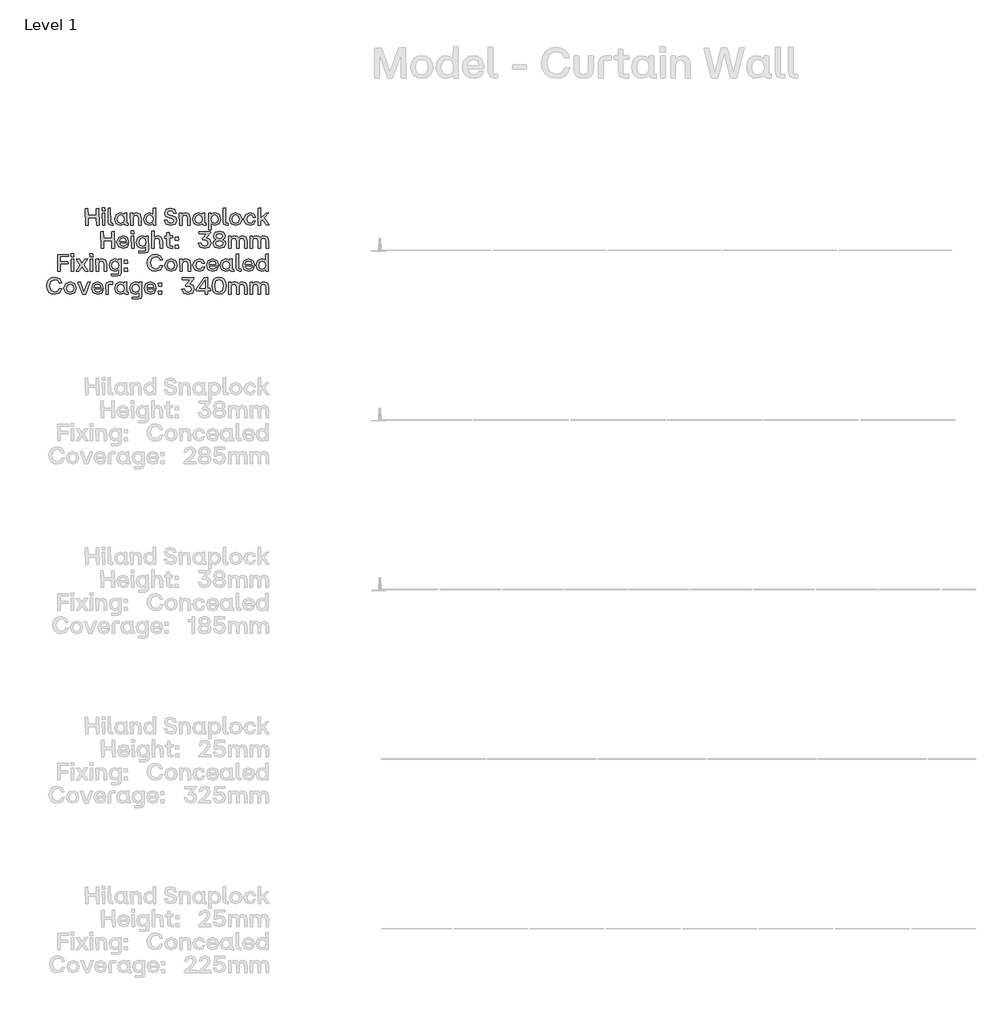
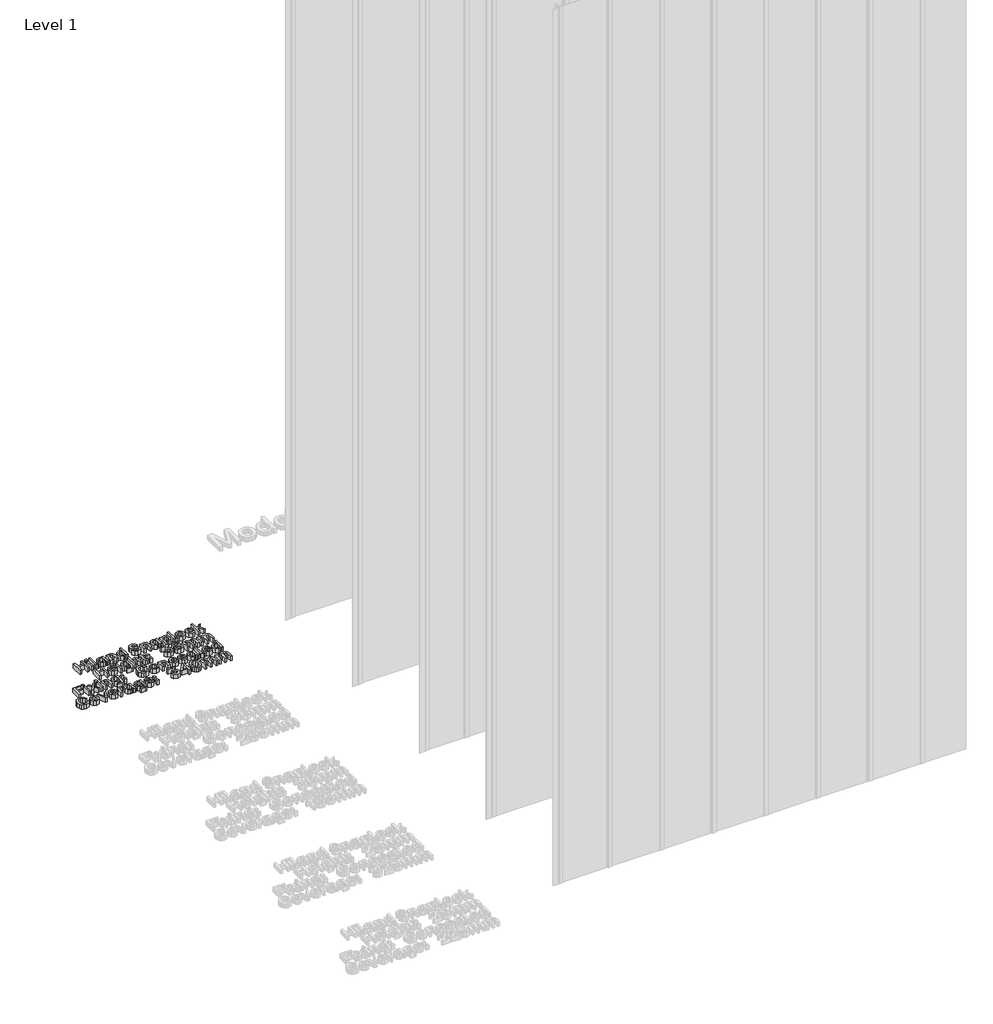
# One storey, part 7 of 64: 1 proxy.
"""IFC4 building model written with IfcOpenShell, lengths in millimetres."""

from ifc_helpers import new_model, si_unit, origin, origin_with_axes, place, context, project, spatial, polyline, outline, extrude, element, save

model = new_model("IFC4")

# Units and contexts
model_context = context("Model", 3, world=origin())
ifc_project = project(units=[si_unit("LENGTHUNIT", "METRE", prefix="MILLI")], contexts=[model_context])

# Site, building, storey
site = spatial("IfcSite", under=ifc_project)
building = spatial("IfcBuilding", under=site)
storey = spatial("IfcBuildingStorey", under=building, Name="Level 1", Elevation=0.0)

# Proxy
placement = place(None, origin())
element("IfcBuildingElementProxy", 1, Name="50mm", ObjectType="50mm", at=placement, inside=storey, context=model_context, shape_type="SweptSolid", body=[
    extrude(outline(polyline([(-811.1721134, -6933.5188866), (-811.8694452, -6911.5808277), (-835.7181932, -6911.5808277), (-835.7181932, -6932.8215548), (-843.2214836, -6933.5188866), (-843.9467087, -6884.2454206), (-836.457365, -6883.5201955), (-835.7181932, -6904.6075096), (-811.8694452, -6904.6075096), (-811.8694452, -6884.2454206), (-804.3801015, -6883.5201955), (-803.6827697, -6932.8215548), (-811.1721134, -6933.5188866)])), origin_with_axes(), (0.0, 0.0, 1.0), 20.0),
    extrude(outline(polyline([(-793.585405, -6933.5188866), (-794.3106301, -6897.8154977), (-787.1002191, -6897.1181659), (-786.4028873, -6932.8215548), (-793.585405, -6933.5188866)])), origin_with_axes(), (0.0, 0.0, 1.0), 20.0),
    extrude(outline(polyline([(-794.5198296, -6890.4516737), (-794.8684955, -6882.4044646), (-786.4726205, -6881.6652929), (-785.7334488, -6890.1030078), (-794.5198296, -6890.4516737)])), origin_with_axes(), (0.0, 0.0, 1.0), 20.0),
    extrude(outline(polyline([(-767.0031162, -6933.5188866), (-774.7016595, -6930.8690257), (-777.3515204, -6923.1565359), (-777.3515204, -6882.8228637), (-770.1411094, -6882.083692), (-769.4437776, -6927.2429003), (-762.7772854, -6927.2429003), (-762.0799536, -6932.8215548), (-767.0031162, -6933.5188866)])), origin_with_axes(), (0.0, 0.0, 1.0), 20.0),
    extrude(outline(polyline([(-741.9131175, -6933.9372857), (-753.6840786, -6928.8955767), (-758.0633224, -6915.3882594), (-753.6840786, -6901.7484491), (-741.9131175, -6896.6579269), (-735.2954386, -6898.2617901), (-730.3095161, -6902.6549805), (-729.9887435, -6897.8154977), (-722.8062258, -6897.1181659), (-722.0810007, -6927.2429003), (-718.1341027, -6927.2429003), (-717.4367709, -6932.8215548), (-723.4338245, -6933.5188866), (-728.0885143, -6932.2113895), (-729.6400776, -6928.288898), (-734.9955859, -6932.3334225), (-741.9131175, -6933.9372857)]), holes=[polyline([(-750.0021666, -6915.3882594), (-747.2477059, -6924.2792401), (-739.7234956, -6927.521833), (-732.3596717, -6924.2931867), (-729.7098108, -6915.3882594), (-732.3805916, -6906.392679), (-739.7234956, -6903.1152195), (-747.2477059, -6906.392679), (-750.0021666, -6915.3882594)])]), origin_with_axes(), (0.0, 0.0, 1.0), 20.0),
    extrude(outline(polyline([(-710.5750258, -6933.5188866), (-711.3002509, -6897.8154977), (-704.4385058, -6897.1181659), (-703.741174, -6902.6549805), (-698.5774319, -6898.1571903), (-691.9562663, -6896.6579269), (-682.3958472, -6900.8419178), (-679.083521, -6913.0870644), (-679.083521, -6932.8215548), (-686.3078786, -6933.5188866), (-687.0331037, -6913.0870644), (-688.9856328, -6905.7092939), (-695.1570194, -6903.3941522), (-701.3841925, -6905.7441604), (-703.3925081, -6913.0870644), (-703.3925081, -6932.8215548), (-710.5750258, -6933.5188866)])), origin_with_axes(), (0.0, 0.0, 1.0), 20.0),
    extrude(outline(polyline([(-656.2249842, -6933.9372857), (-667.9959452, -6928.8955767), (-672.375189, -6915.3882594), (-667.9959452, -6901.7484491), (-656.2249842, -6896.6579269), (-649.6073052, -6898.2617901), (-644.6213828, -6902.6549805), (-644.3006101, -6882.8228637), (-637.1180924, -6882.083692), (-636.3928674, -6932.8215548), (-643.2546124, -6933.5188866), (-643.9519442, -6928.0099653), (-649.3074526, -6932.3334225), (-656.2249842, -6933.9372857)]), holes=[polyline([(-664.3140332, -6915.3882594), (-661.5595725, -6924.2792401), (-654.0353623, -6927.521833), (-646.6715383, -6924.2931867), (-644.0216774, -6915.3882594), (-646.6924583, -6906.392679), (-654.0353623, -6903.1152195), (-661.5595725, -6906.392679), (-664.3140332, -6915.3882594)])]), origin_with_axes(), (0.0, 0.0, 1.0), 20.0),
    extrude(outline(polyline([(-592.2378169, -6933.9372857), (-605.8218406, -6929.823028), (-611.8049476, -6918.1078535), (-604.4411236, -6917.2989486), (-600.2780527, -6924.9417053), (-592.2378169, -6927.1034339), (-585.2854187, -6925.1160383), (-582.7959441, -6919.6001436), (-584.5183537, -6915.0186736), (-590.2852878, -6912.7383985), (-596.8820467, -6911.5808277), (-607.3629439, -6906.8180514), (-610.8565763, -6897.4668318), (-606.3797061, -6886.9022548), (-593.8835199, -6883.1017964), (-581.2897074, -6886.951068), (-575.6831596, -6897.8154977), (-583.0051436, -6898.610456), (-587.0287482, -6891.8672573), (-593.8835199, -6889.9635415), (-600.417519, -6891.706871), (-602.6699008, -6896.7973933), (-600.6615852, -6901.6299027), (-594.3716522, -6904.1612172), (-587.8167332, -6905.3048414), (-577.7193685, -6909.8932847), (-574.5953219, -6919.4606772), (-579.2883651, -6930.1019607), (-592.2378169, -6933.9372857)])), origin_with_axes(), (0.0, 0.0, 1.0), 20.0),
    extrude(outline(polyline([(-565.9763007, -6933.5188866), (-566.7015258, -6897.8154977), (-559.8397808, -6897.1181659), (-559.1424489, -6902.6549805), (-553.9787069, -6898.1571903), (-547.3575413, -6896.6579269), (-537.7971221, -6900.8419178), (-534.484796, -6913.0870644), (-534.484796, -6932.8215548), (-541.7091536, -6933.5188866), (-542.4343787, -6913.0870644), (-544.3869077, -6905.7092939), (-550.5582943, -6903.3941522), (-556.7854674, -6905.7441604), (-558.793783, -6913.0870644), (-558.793783, -6932.8215548), (-565.9763007, -6933.5188866)])), origin_with_axes(), (0.0, 0.0, 1.0), 20.0),
    extrude(outline(polyline([(-511.6262591, -6933.9372857), (-523.3972201, -6928.8955767), (-527.7764639, -6915.3882594), (-523.3972201, -6901.7484491), (-511.6262591, -6896.6579269), (-505.0085802, -6898.2617901), (-500.0226577, -6902.6549805), (-499.7018851, -6897.8154977), (-492.5193674, -6897.1181659), (-491.7941423, -6927.2429003), (-487.8472442, -6927.2429003), (-487.1499124, -6932.8215548), (-493.146966, -6933.5188866), (-497.8016559, -6932.2113895), (-499.3532192, -6928.288898), (-504.7087275, -6932.3334225), (-511.6262591, -6933.9372857)]), holes=[polyline([(-519.7153081, -6915.3882594), (-516.9608475, -6924.2792401), (-509.4366372, -6927.521833), (-502.0728132, -6924.2931867), (-499.4229523, -6915.3882594), (-502.0937332, -6906.392679), (-509.4366372, -6903.1152195), (-516.9608475, -6906.392679), (-519.7153081, -6915.3882594)])]), origin_with_axes(), (0.0, 0.0, 1.0), 20.0),
    extrude(outline(polyline([(-480.2881673, -6947.0750171), (-481.0133924, -6897.8154977), (-474.1516474, -6897.1181659), (-473.4543156, -6902.5852473), (-468.0988072, -6898.2617901), (-461.1812756, -6896.6579269), (-449.4103146, -6901.7135826), (-445.0310708, -6915.2487931), (-449.4103146, -6928.8607101), (-461.1812756, -6933.9372857), (-467.7989545, -6932.3334225), (-472.784877, -6927.9402321), (-473.1056497, -6946.3776853), (-480.2881673, -6947.0750171)]), holes=[polyline([(-473.3845824, -6915.2487931), (-470.7138015, -6924.2443735), (-463.3708975, -6927.521833), (-455.8466872, -6924.2443735), (-453.0922266, -6915.2487931), (-455.8466872, -6906.3578124), (-463.3708975, -6903.1152195), (-470.7347215, -6906.3368925), (-473.3845824, -6915.2487931)])]), origin_with_axes(), (0.0, 0.0, 1.0), 20.0),
    extrude(outline(polyline([(-427.8209216, -6933.5188866), (-435.5194648, -6930.8690257), (-438.1693257, -6923.1565359), (-438.1693257, -6882.8228637), (-430.9589148, -6882.083692), (-430.261583, -6927.2429003), (-423.5950908, -6927.2429003), (-422.897759, -6932.8215548), (-427.8209216, -6933.5188866)])), origin_with_axes(), (0.0, 0.0, 1.0), 20.0),
    extrude(outline(polyline([(-400.6807674, -6933.9372857), (-413.8394187, -6928.8118969), (-418.8811278, -6915.3882594), (-413.8254721, -6901.8530489), (-400.6807674, -6896.6579269), (-387.410543, -6901.8530489), (-382.3409407, -6915.3882594), (-387.410543, -6928.8118969), (-400.6807674, -6933.9372857)]), holes=[polyline([(-410.819972, -6915.3882594), (-408.1212979, -6924.2931867), (-400.6807674, -6927.521833), (-393.1426105, -6924.2792401), (-390.3881498, -6915.3882594), (-393.1286638, -6906.392679), (-400.6807674, -6903.1152195), (-408.1212979, -6906.392679), (-410.819972, -6915.3882594)])]), origin_with_axes(), (0.0, 0.0, 1.0), 20.0),
    extrude(outline(polyline([(-358.5898191, -6933.9372857), (-371.9228034, -6928.8955767), (-376.9296458, -6915.3882594), (-371.8530702, -6901.8530489), (-358.5898191, -6896.6579269), (-347.5161898, -6900.0957727), (-342.3001479, -6909.1820063), (-349.3153059, -6909.9490713), (-352.8856448, -6904.6493495), (-358.5898191, -6903.1152195), (-366.1488959, -6906.392679), (-368.86849, -6915.3882594), (-366.1349493, -6924.3141067), (-358.5898191, -6927.521833), (-352.7113119, -6926.0574362), (-349.733705, -6921.3155799), (-342.6488138, -6920.6461413), (-347.3069903, -6930.4994399), (-358.5898191, -6933.9372857)])), origin_with_axes(), (0.0, 0.0, 1.0), 20.0),
    extrude(outline(polyline([(-333.9042728, -6933.5188866), (-334.6294979, -6882.8228637), (-327.4190869, -6882.083692), (-326.7217551, -6912.8778649), (-311.4780817, -6897.4668318), (-303.5703389, -6897.1181659), (-316.2896712, -6912.0410667), (-302.2035685, -6932.6402485), (-309.8463252, -6933.5188866), (-321.5614997, -6917.2292154), (-326.7217551, -6922.2918444), (-326.7217551, -6932.8215548), (-333.9042728, -6933.5188866)])), origin_with_axes(), (0.0, 0.0, 1.0), 20.0),
    extrude(outline(polyline([(-765.6502925, -7001.3705811), (-766.3476243, -6979.4325222), (-790.1963724, -6979.4325222), (-790.1963724, -7000.6732493), (-797.6996627, -7001.3705811), (-798.4248878, -6952.0971151), (-790.9355441, -6951.37189), (-790.1963724, -6972.459204), (-766.3476243, -6972.459204), (-766.3476243, -6952.0971151), (-758.8582806, -6951.37189), (-758.1609488, -7000.6732493), (-765.6502925, -7001.3705811)])), origin_with_axes(), (0.0, 0.0, 1.0), 20.0),
    extrude(outline(polyline([(-732.5130847, -7001.7889802), (-745.9158022, -6996.7472711), (-750.9226446, -6983.2399539), (-745.9367221, -6969.586197), (-732.5130847, -6964.5096214), (-720.2330714, -6969.5164638), (-715.7352812, -6983.1702207), (-715.7352812, -6985.0809099), (-742.7917556, -6985.8200816), (-739.7234956, -6992.8631329), (-732.5130847, -6995.3735275), (-726.7252306, -6994.0974102), (-723.7267038, -6990.520098), (-716.6418126, -6989.9343393), (-721.2999891, -6998.6998002), (-732.5130847, -7001.7889802)]), holes=[polyline([(-742.7220224, -6980.0322275), (-723.5175043, -6980.0322275), (-726.1603919, -6973.3866554), (-732.5130847, -6970.966914), (-739.6049492, -6973.2681089), (-742.7220224, -6980.0322275)])]), origin_with_axes(), (0.0, 0.0, 1.0), 20.0),
    extrude(outline(polyline([(-708.8316963, -6958.3033682), (-709.1803622, -6950.2561591), (-700.7844871, -6949.5169873), (-700.0453154, -6957.9547023), (-708.8316963, -6958.3033682)])), origin_with_axes(), (0.0, 0.0, 1.0), 20.0),
    extrude(outline(polyline([(-707.8972716, -7001.3705811), (-708.6224967, -6965.6671922), (-701.4120858, -6964.9698603), (-700.7147539, -7000.6732493), (-707.8972716, -7001.3705811)])), origin_with_axes(), (0.0, 0.0, 1.0), 20.0),
    extrude(outline(polyline([(-686.2241988, -7014.9267115), (-686.9633706, -7009.348057), (-665.7226435, -7008.6507252), (-665.7226435, -6995.7919266), (-671.0293386, -7000.185117), (-677.6470175, -7001.7889802), (-689.4179785, -6996.7124045), (-693.7972223, -6983.1004875), (-689.4179785, -6969.565277), (-677.6470175, -6964.5096214), (-670.7294859, -6966.1134845), (-665.6529103, -6970.4369418), (-665.3739776, -6965.6671922), (-658.5401258, -6964.9698603), (-657.8149007, -7004.9269733), (-660.3950284, -7012.3675038), (-667.8146389, -7014.9267115), (-686.2241988, -7014.9267115)]), holes=[polyline([(-685.7360666, -6983.1004875), (-682.9816059, -6992.0960679), (-675.4573956, -6995.3735275), (-668.1144916, -6992.0960679), (-665.4437108, -6983.1004875), (-668.0935716, -6974.1885869), (-675.4573956, -6970.966914), (-682.9816059, -6974.2095069), (-685.7360666, -6983.1004875)])]), origin_with_axes(), (0.0, 0.0, 1.0), 20.0),
    extrude(outline(polyline([(-648.0940952, -7001.3705811), (-648.8193203, -6950.6745581), (-641.6089093, -6949.9353864), (-640.9115775, -6970.2277422), (-635.8245419, -6965.9391516), (-629.4753358, -6964.5096214), (-619.9149166, -6968.6936122), (-616.6025905, -6980.9387589), (-616.6025905, -7000.6732493), (-623.8269481, -7001.3705811), (-624.5521731, -6980.9387589), (-626.5047022, -6973.5609883), (-632.6760888, -6971.2458467), (-638.9032619, -6973.5958549), (-640.9115775, -6980.9387589), (-640.9115775, -7000.6732493), (-648.0940952, -7001.3705811)])), origin_with_axes(), (0.0, 0.0, 1.0), 20.0),
    extrude(outline(polyline([(-593.3256545, -7001.3705811), (-601.0381444, -6998.7207202), (-603.6880053, -6991.0082303), (-603.6880053, -6971.2458467), (-609.8942584, -6971.2458467), (-610.6194835, -6965.6671922), (-603.6880053, -6964.9698603), (-603.6880053, -6954.9561755), (-596.4636477, -6954.2309504), (-595.7663158, -6964.9698603), (-586.979935, -6964.9698603), (-586.2547099, -6970.506675), (-595.7663158, -6971.2458467), (-595.7663158, -6995.0945947), (-586.979935, -6995.0945947), (-586.2547099, -7000.6732493), (-593.3256545, -7001.3705811)])), origin_with_axes(), (0.0, 0.0, 1.0), 20.0),
    extrude(outline(polyline([(-578.849046, -6977.7310326), (-579.5463778, -6968.1078535), (-570.0626652, -6967.3686818), (-569.3374401, -6977.0337007), (-578.849046, -6977.7310326)])), origin_with_axes(), (0.0, 0.0, 1.0), 20.0),
    extrude(outline(polyline([(-579.1977119, -7001.0219152), (-579.5463778, -6991.747402), (-570.0626652, -6991.0082303), (-569.3374401, -7000.6732493), (-579.1977119, -7001.0219152)])), origin_with_axes(), (0.0, 0.0, 1.0), 20.0),
    extrude(outline(polyline([(-491.7244091, -7001.7889802), (-505.1201533, -6997.7235357), (-510.9428739, -6985.959548), (-503.57905, -6985.1506431), (-499.415979, -6992.7236666), (-491.7244091, -6994.9551284), (-484.5837313, -6992.5493336), (-481.9338704, -6985.959548), (-484.7022777, -6979.0908296), (-493.3701122, -6976.8942344), (-498.8093003, -6976.8942344), (-499.5066322, -6972.8078699), (-486.1457546, -6958.6520341), (-508.8508785, -6958.3731014), (-509.5761036, -6952.0971151), (-475.8670836, -6951.37189), (-475.1697518, -6956.1834795), (-488.0703904, -6970.0882759), (-477.3454271, -6975.2136647), (-473.7332483, -6985.959548), (-478.5797044, -6997.5352561), (-491.7244091, -7001.7889802)])), origin_with_axes(), (0.0, 0.0, 1.0), 20.0),
    extrude(outline(polyline([(-434.5710936, -6998.1768014), (-448.6153563, -7001.7889802), (-462.6875123, -6998.1768014), (-467.6246216, -6987.8702371), (-465.1490936, -6980.1368273), (-458.4895748, -6975.8063967), (-464.0542827, -6971.1691402), (-465.9091853, -6964.370155), (-461.2231155, -6954.5796163), (-448.6223296, -6950.9534909), (-436.0354904, -6954.5796163), (-431.3633672, -6964.370155), (-433.2182699, -6971.1691402), (-438.7829777, -6975.527464), (-432.1234589, -6980.1368273), (-429.647931, -6987.8702371), (-434.5710936, -6998.1768014)]), holes=[polyline([(-459.4239995, -6986.9358125), (-456.7218387, -6992.9502994), (-448.6153563, -6994.9551284), (-440.5402539, -6992.9502994), (-437.8485531, -6986.9358125), (-440.5402539, -6981.3606446), (-448.6153563, -6979.5022554), (-456.7218387, -6981.3606446), (-459.4239995, -6986.9358125)]), polyline([(-457.6806699, -6965.4579926), (-455.3446083, -6970.8065276), (-448.6153563, -6972.6684036), (-441.8861043, -6970.8065276), (-439.5500427, -6965.4579926), (-441.8861043, -6959.788685), (-448.6153563, -6957.8152359), (-455.3446083, -6959.788685), (-457.6806699, -6965.4579926)])]), origin_with_axes(), (0.0, 0.0, 1.0), 20.0),
    extrude(outline(polyline([(-421.3775756, -7001.3705811), (-422.1028007, -6965.6671922), (-415.2410557, -6964.9698603), (-414.5437239, -6970.506675), (-409.5578014, -6966.0088848), (-403.1074821, -6964.5096214), (-396.8210358, -6966.0088848), (-392.605665, -6970.506675), (-386.7829443, -6966.0646713), (-379.5376668, -6964.5096214), (-370.2631536, -6968.6796656), (-367.0554273, -6980.9387589), (-367.0554273, -7000.6732493), (-374.2658383, -7001.3705811), (-374.9631701, -6980.9387589), (-376.845966, -6973.5609883), (-382.8151263, -6971.2458467), (-388.7215268, -6973.5958549), (-390.6252426, -6980.9387589), (-390.6252426, -7000.6732493), (-397.8356536, -7001.3705811), (-398.5329854, -6980.9387589), (-400.4018347, -6973.5609883), (-406.3152085, -6971.2458467), (-412.2913421, -6973.5958549), (-414.195058, -6980.9387589), (-414.195058, -7000.6732493), (-421.3775756, -7001.3705811)])), origin_with_axes(), (0.0, 0.0, 1.0), 20.0),
    extrude(outline(polyline([(-358.0040603, -7001.3705811), (-358.7292854, -6965.6671922), (-351.8675404, -6964.9698603), (-351.1702086, -6970.506675), (-346.1842861, -6966.0088848), (-339.7339668, -6964.5096214), (-333.4475205, -6966.0088848), (-329.2321497, -6970.506675), (-323.409429, -6966.0646713), (-316.1641515, -6964.5096214), (-306.8896383, -6968.6796656), (-303.681912, -6980.9387589), (-303.681912, -7000.6732493), (-310.8923229, -7001.3705811), (-311.5896548, -6980.9387589), (-313.4724507, -6973.5609883), (-319.441611, -6971.2458467), (-325.3480115, -6973.5958549), (-327.2517273, -6980.9387589), (-327.2517273, -7000.6732493), (-334.4621383, -7001.3705811), (-335.1594701, -6980.9387589), (-337.0283194, -6973.5609883), (-342.9416931, -6971.2458467), (-348.9178268, -6973.5958549), (-350.8215426, -6980.9387589), (-350.8215426, -7000.6732493), (-358.0040603, -7001.3705811)])), origin_with_axes(), (0.0, 0.0, 1.0), 20.0),
    extrude(outline(polyline([(-925.3392781, -7069.2222755), (-926.0645031, -7019.9488095), (-894.4753719, -7019.2235844), (-893.7780401, -7025.527464), (-917.8359877, -7026.2247958), (-917.8359877, -7041.287163), (-895.9118755, -7041.287163), (-895.2145437, -7047.5631494), (-917.8359877, -7048.3023211), (-917.8359877, -7068.5249437), (-925.3392781, -7069.2222755)])), origin_with_axes(), (0.0, 0.0, 1.0), 20.0),
    extrude(outline(polyline([(-885.5216314, -7069.2222755), (-886.2468565, -7033.5188866), (-879.0364456, -7032.8215548), (-878.3391137, -7068.5249437), (-885.5216314, -7069.2222755)])), origin_with_axes(), (0.0, 0.0, 1.0), 20.0),
    extrude(outline(polyline([(-886.4560561, -7026.1550627), (-886.804722, -7018.1078535), (-878.4088469, -7017.3686818), (-877.6696752, -7025.8063967), (-886.4560561, -7026.1550627)])), origin_with_axes(), (0.0, 0.0, 1.0), 20.0),
    extrude(outline(polyline([(-871.4215821, -7069.2222755), (-858.6604099, -7050.7429824), (-870.8637167, -7033.658353), (-862.8722941, -7032.8215548), (-854.0859132, -7044.815662), (-845.8573978, -7033.2399539), (-837.7404555, -7032.8215548), (-849.3440569, -7049.9340775), (-836.303952, -7068.3436374), (-844.2953746, -7069.2222755), (-854.0161801, -7055.7916648), (-863.2906932, -7068.8038764), (-871.4215821, -7069.2222755)])), origin_with_axes(), (0.0, 0.0, 1.0), 20.0),
    extrude(outline(polyline([(-829.2887939, -7069.2222755), (-830.014019, -7033.5188866), (-822.803608, -7032.8215548), (-822.1062762, -7068.5249437), (-829.2887939, -7069.2222755)])), origin_with_axes(), (0.0, 0.0, 1.0), 20.0),
    extrude(outline(polyline([(-830.2232185, -7026.1550627), (-830.5718844, -7018.1078535), (-822.1760094, -7017.3686818), (-821.4368377, -7025.8063967), (-830.2232185, -7026.1550627)])), origin_with_axes(), (0.0, 0.0, 1.0), 20.0),
    extrude(outline(polyline([(-812.3296842, -7069.2222755), (-813.0549093, -7033.5188866), (-806.1931642, -7032.8215548), (-805.4958324, -7038.3583694), (-800.3320903, -7033.8605792), (-793.7109247, -7032.3613158), (-784.1505056, -7036.5453067), (-780.8381794, -7048.7904534), (-780.8381794, -7068.5249437), (-788.062537, -7069.2222755), (-788.7877621, -7048.7904534), (-790.7402912, -7041.4126828), (-796.9116778, -7039.0975411), (-803.1388509, -7041.4475493), (-805.1471665, -7048.7904534), (-805.1471665, -7068.5249437), (-812.3296842, -7069.2222755)])), origin_with_axes(), (0.0, 0.0, 1.0), 20.0),
    extrude(outline(polyline([(-766.5568239, -7082.778406), (-767.2959956, -7077.1997515), (-746.0552685, -7076.5024197), (-746.0552685, -7063.643621), (-751.3619636, -7068.0368114), (-757.9796426, -7069.6406746), (-769.7506036, -7064.564099), (-774.1298474, -7050.952182), (-769.7506036, -7037.4169715), (-757.9796426, -7032.3613158), (-751.0621109, -7033.965179), (-745.9855353, -7038.2886362), (-745.7066026, -7033.5188866), (-738.8727508, -7032.8215548), (-738.1475257, -7072.7786678), (-740.7276535, -7080.2191982), (-748.147264, -7082.778406), (-766.5568239, -7082.778406)]), holes=[polyline([(-766.0686916, -7050.952182), (-763.3142309, -7059.9477624), (-755.7900207, -7063.2252219), (-748.4471166, -7059.9477624), (-745.7763358, -7050.952182), (-748.4261967, -7042.0402814), (-755.7900207, -7038.8186084), (-763.3142309, -7042.0612013), (-766.0686916, -7050.952182)])]), origin_with_axes(), (0.0, 0.0, 1.0), 20.0),
    extrude(outline(polyline([(-728.8032794, -7045.582727), (-729.5006112, -7035.959548), (-720.0168986, -7035.2203762), (-719.2916735, -7044.8853952), (-728.8032794, -7045.582727)])), origin_with_axes(), (0.0, 0.0, 1.0), 20.0),
    extrude(outline(polyline([(-729.1519453, -7068.8736096), (-729.5006112, -7059.5990965), (-720.0168986, -7058.8599248), (-719.2916735, -7068.5249437), (-729.1519453, -7068.8736096)])), origin_with_axes(), (0.0, 0.0, 1.0), 20.0),
    extrude(outline(polyline([(-637.0483593, -7069.6406746), (-647.0550708, -7067.9269817), (-654.7605874, -7062.7859029), (-659.6767766, -7054.7160305), (-661.3155064, -7044.2159567), (-659.66283, -7033.8919591), (-654.7048008, -7025.7924501), (-646.9853376, -7020.5520015), (-637.0483593, -7018.8051853), (-622.8716035, -7023.4215219), (-615.9192053, -7035.7085085), (-623.2411893, -7036.5174134), (-628.4049314, -7028.3272513), (-637.0483593, -7025.8063967), (-648.7077472, -7030.743506), (-652.9475246, -7044.2159567), (-648.7286672, -7057.7999804), (-637.0483593, -7062.6673565), (-628.2340851, -7060.1813685), (-623.5480153, -7052.7234048), (-616.1284048, -7052.0679129), (-622.5926707, -7065.0382846), (-637.0483593, -7069.6406746)])), origin_with_axes(), (0.0, 0.0, 1.0), 20.0),
    extrude(outline(polyline([(-591.693898, -7069.6406746), (-604.8525494, -7064.5152858), (-609.8942584, -7051.0916483), (-604.8386027, -7037.5564378), (-591.693898, -7032.3613158), (-578.4236736, -7037.5564378), (-573.3540713, -7051.0916483), (-578.4236736, -7064.5152858), (-591.693898, -7069.6406746)]), holes=[polyline([(-601.8331026, -7051.0916483), (-599.1344285, -7059.9965756), (-591.693898, -7063.2252219), (-584.1557411, -7059.982629), (-581.4012805, -7051.0916483), (-584.1417945, -7042.0960679), (-591.693898, -7038.8186084), (-599.1344285, -7042.0960679), (-601.8331026, -7051.0916483)])]), origin_with_axes(), (0.0, 0.0, 1.0), 20.0),
    extrude(outline(polyline([(-565.083716, -7069.2222755), (-565.8089411, -7033.5188866), (-558.947196, -7032.8215548), (-558.2498642, -7038.3583694), (-553.0861221, -7033.8605792), (-546.4649565, -7032.3613158), (-536.9045374, -7036.5453067), (-533.5922113, -7048.7904534), (-533.5922113, -7068.5249437), (-540.8165689, -7069.2222755), (-541.5417939, -7048.7904534), (-543.494323, -7041.4126828), (-549.6657096, -7039.0975411), (-555.8928827, -7041.4475493), (-557.9011983, -7048.7904534), (-557.9011983, -7068.5249437), (-565.083716, -7069.2222755)])), origin_with_axes(), (0.0, 0.0, 1.0), 20.0),
    extrude(outline(polyline([(-508.5440525, -7069.6406746), (-521.8770368, -7064.5989656), (-526.8838792, -7051.0916483), (-521.8073036, -7037.5564378), (-508.5440525, -7032.3613158), (-497.4704233, -7035.7991616), (-492.2543813, -7044.8853952), (-499.2695393, -7045.6524602), (-502.8398782, -7040.3527384), (-508.5440525, -7038.8186084), (-516.1031293, -7042.0960679), (-518.8227234, -7051.0916483), (-516.0891827, -7060.0174956), (-508.5440525, -7063.2252219), (-502.6655453, -7061.7608251), (-499.6879384, -7057.0189688), (-492.6030472, -7056.3495302), (-497.2612237, -7066.2028288), (-508.5440525, -7069.6406746)])), origin_with_axes(), (0.0, 0.0, 1.0), 20.0),
    extrude(outline(polyline([(-468.3080068, -7069.6406746), (-481.7107242, -7064.5989656), (-486.7175667, -7051.0916483), (-481.7316442, -7037.4378914), (-468.3080068, -7032.3613158), (-456.0279935, -7037.3681582), (-451.5302033, -7051.0219152), (-451.5302033, -7052.9326043), (-478.5866777, -7053.6717761), (-475.5184177, -7060.7148274), (-468.3080068, -7063.2252219), (-462.5201527, -7061.9491047), (-459.5216259, -7058.3717925), (-452.4367347, -7057.7860338), (-457.0949112, -7066.5514947), (-468.3080068, -7069.6406746)]), holes=[polyline([(-478.5169445, -7047.883922), (-459.3124264, -7047.883922), (-461.9553139, -7041.2383498), (-468.3080068, -7038.8186084), (-475.3998713, -7041.1198034), (-478.5169445, -7047.883922)])]), origin_with_axes(), (0.0, 0.0, 1.0), 20.0),
    extrude(outline(polyline([(-430.4010493, -7069.6406746), (-442.1720104, -7064.5989656), (-446.5512542, -7051.0916483), (-442.1720104, -7037.4518381), (-430.4010493, -7032.3613158), (-423.7833704, -7033.965179), (-418.7974479, -7038.3583694), (-418.4766753, -7033.5188866), (-411.2941576, -7032.8215548), (-410.5689325, -7062.9462892), (-406.6220345, -7062.9462892), (-405.9247026, -7068.5249437), (-411.9217562, -7069.2222755), (-416.5764461, -7067.9147784), (-418.1280094, -7063.9922869), (-423.4835177, -7068.0368114), (-430.4010493, -7069.6406746)]), holes=[polyline([(-438.4900984, -7051.0916483), (-435.7356377, -7059.982629), (-428.2114274, -7063.2252219), (-420.8476035, -7059.9965756), (-418.1977426, -7051.0916483), (-420.8685234, -7042.0960679), (-428.2114274, -7038.8186084), (-435.7356377, -7042.0960679), (-438.4900984, -7051.0916483)])]), origin_with_axes(), (0.0, 0.0, 1.0), 20.0),
    extrude(outline(polyline([(-389.4397785, -7069.2222755), (-397.1383218, -7066.5724146), (-399.7881827, -7058.8599248), (-399.7881827, -7018.5262526), (-392.5777717, -7017.7870809), (-391.8804399, -7062.9462892), (-385.2139477, -7062.9462892), (-384.5166159, -7068.5249437), (-389.4397785, -7069.2222755)])), origin_with_axes(), (0.0, 0.0, 1.0), 20.0),
    extrude(outline(polyline([(-362.0904248, -7069.6406746), (-375.4931422, -7064.5989656), (-380.4999847, -7051.0916483), (-375.5140622, -7037.4378914), (-362.0904248, -7032.3613158), (-349.8104115, -7037.3681582), (-345.3126213, -7051.0219152), (-345.3126213, -7052.9326043), (-372.3690957, -7053.6717761), (-369.3008357, -7060.7148274), (-362.0904248, -7063.2252219), (-356.3025707, -7061.9491047), (-353.3040439, -7058.3717925), (-346.2191527, -7057.7860338), (-350.8773292, -7066.5514947), (-362.0904248, -7069.6406746)]), holes=[polyline([(-372.2993625, -7047.883922), (-353.0948444, -7047.883922), (-355.7377319, -7041.2383498), (-362.0904248, -7038.8186084), (-369.1822893, -7041.1198034), (-372.2993625, -7047.883922)])]), origin_with_axes(), (0.0, 0.0, 1.0), 20.0),
    extrude(outline(polyline([(-324.1834673, -7069.6406746), (-335.9544284, -7064.5989656), (-340.3336722, -7051.0916483), (-335.9544284, -7037.4518381), (-324.1834673, -7032.3613158), (-317.5657884, -7033.965179), (-312.5798659, -7038.3583694), (-312.2590933, -7018.5262526), (-305.0765756, -7017.7870809), (-304.3513505, -7068.5249437), (-311.2130956, -7069.2222755), (-311.9104274, -7063.7133542), (-317.2659357, -7068.0368114), (-324.1834673, -7069.6406746)]), holes=[polyline([(-332.2725164, -7051.0916483), (-329.5180557, -7059.982629), (-321.9938454, -7063.2252219), (-314.6300215, -7059.9965756), (-311.9801606, -7051.0916483), (-314.6509414, -7042.0960679), (-321.9938454, -7038.8186084), (-329.5180557, -7042.0960679), (-332.2725164, -7051.0916483)])]), origin_with_axes(), (0.0, 0.0, 1.0), 20.0),
    extrude(outline(polyline([(-934.2790719, -7137.4923691), (-944.2857835, -7135.7786761), (-951.9913, -7130.6375973), (-956.9074893, -7122.5677249), (-958.5462191, -7112.0676511), (-956.8935427, -7101.7436536), (-951.9355135, -7093.6441446), (-944.2160503, -7088.403696), (-934.2790719, -7086.6568798), (-920.1023161, -7091.2732164), (-913.1499179, -7103.560203), (-920.471902, -7104.3691079), (-925.6356441, -7096.1789457), (-934.2790719, -7093.6580912), (-945.9384599, -7098.5952004), (-950.1782373, -7112.0676511), (-945.9593798, -7125.6516749), (-934.2790719, -7130.5190509), (-925.4647978, -7128.033063), (-920.778728, -7120.5750992), (-913.3591175, -7119.9196073), (-919.8233834, -7132.8899791), (-934.2790719, -7137.4923691)])), origin_with_axes(), (0.0, 0.0, 1.0), 20.0),
    extrude(outline(polyline([(-888.9246107, -7137.4923691), (-902.083262, -7132.3669802), (-907.1249711, -7118.9433428), (-902.0693154, -7105.4081323), (-888.9246107, -7100.2130103), (-875.6543863, -7105.4081323), (-870.584784, -7118.9433428), (-875.6543863, -7132.3669802), (-888.9246107, -7137.4923691)]), holes=[polyline([(-899.0638153, -7118.9433428), (-896.3651412, -7127.8482701), (-888.9246107, -7131.0769164), (-881.3864538, -7127.8343234), (-878.6319931, -7118.9433428), (-881.3725071, -7109.9477624), (-888.9246107, -7106.6703029), (-896.3651412, -7109.9477624), (-899.0638153, -7118.9433428)])]), origin_with_axes(), (0.0, 0.0, 1.0), 20.0),
    extrude(outline(polyline([(-852.4820501, -7137.07397), (-866.8749787, -7101.5100474), (-859.6227278, -7100.6732493), (-848.1864861, -7130.5887841), (-837.3499497, -7101.2311147), (-829.9861257, -7100.6732493), (-843.0959638, -7136.5161045), (-852.4820501, -7137.07397)])), origin_with_axes(), (0.0, 0.0, 1.0), 20.0),
    extrude(outline(polyline([(-807.4902014, -7137.4923691), (-820.8929189, -7132.45066), (-825.8997613, -7118.9433428), (-820.9138388, -7105.2895859), (-807.4902014, -7100.2130103), (-795.2101881, -7105.2198527), (-790.7123979, -7118.8736096), (-790.7123979, -7120.7842988), (-817.7688723, -7121.5234705), (-814.7006123, -7128.5665218), (-807.4902014, -7131.0769164), (-801.7023473, -7129.8007992), (-798.7038205, -7126.2234869), (-791.6189293, -7125.6377282), (-796.2771058, -7134.4031891), (-807.4902014, -7137.4923691)]), holes=[polyline([(-817.6991392, -7115.7356165), (-798.494621, -7115.7356165), (-801.1375086, -7109.0900443), (-807.4902014, -7106.6703029), (-814.5820659, -7108.9714978), (-817.6991392, -7115.7356165)])]), origin_with_axes(), (0.0, 0.0, 1.0), 20.0),
    extrude(outline(polyline([(-783.2509475, -7137.07397), (-783.9482793, -7110.9937601), (-781.2984184, -7103.3021902), (-773.5998752, -7100.6732493), (-763.446724, -7100.6732493), (-762.7493922, -7106.6703029), (-776.0405365, -7107.3676347), (-776.0405365, -7136.3766382), (-783.2509475, -7137.07397)])), origin_with_axes(), (0.0, 0.0, 1.0), 20.0),
    extrude(outline(polyline([(-741.9131175, -7137.4923691), (-753.6840786, -7132.45066), (-758.0633224, -7118.9433428), (-753.6840786, -7105.3035325), (-741.9131175, -7100.2130103), (-735.2954386, -7101.8168734), (-730.3095161, -7106.2100639), (-729.9887435, -7101.3705811), (-722.8062258, -7100.6732493), (-722.0810007, -7130.7979836), (-718.1341027, -7130.7979836), (-717.4367709, -7136.3766382), (-723.4338245, -7137.07397), (-728.0885143, -7135.7664728), (-729.6400776, -7131.8439814), (-734.9955859, -7135.8885059), (-741.9131175, -7137.4923691)]), holes=[polyline([(-750.0021666, -7118.9433428), (-747.2477059, -7127.8343234), (-739.7234956, -7131.0769164), (-732.3596717, -7127.8482701), (-729.7098108, -7118.9433428), (-732.3805916, -7109.9477624), (-739.7234956, -7106.6703029), (-747.2477059, -7109.9477624), (-750.0021666, -7118.9433428)])]), origin_with_axes(), (0.0, 0.0, 1.0), 20.0),
    extrude(outline(polyline([(-705.8610627, -7150.6301005), (-706.6002345, -7145.0514459), (-685.3595074, -7144.3541141), (-685.3595074, -7131.4953155), (-690.6662025, -7135.8885059), (-697.2838814, -7137.4923691), (-709.0548424, -7132.4157935), (-713.4340862, -7118.8038764), (-709.0548424, -7105.2686659), (-697.2838814, -7100.2130103), (-690.3663498, -7101.8168734), (-685.2897742, -7106.1403307), (-685.0108415, -7101.3705811), (-678.1769897, -7100.6732493), (-677.4517646, -7140.6303622), (-680.0318923, -7148.0708927), (-687.4515028, -7150.6301005), (-705.8610627, -7150.6301005)]), holes=[polyline([(-705.3729305, -7118.8038764), (-702.6184698, -7127.7994568), (-695.0942595, -7131.0769164), (-687.7513555, -7127.7994568), (-685.0805747, -7118.8038764), (-687.7304355, -7109.8919758), (-695.0942595, -7106.6703029), (-702.6184698, -7109.9128958), (-705.3729305, -7118.8038764)])]), origin_with_axes(), (0.0, 0.0, 1.0), 20.0),
    extrude(outline(polyline([(-652.1804596, -7137.4923691), (-665.5831771, -7132.45066), (-670.5900195, -7118.9433428), (-665.6040971, -7105.2895859), (-652.1804596, -7100.2130103), (-639.9004464, -7105.2198527), (-635.4026562, -7118.8736096), (-635.4026562, -7120.7842988), (-662.4591306, -7121.5234705), (-659.3908706, -7128.5665218), (-652.1804596, -7131.0769164), (-646.3926056, -7129.8007992), (-643.3940788, -7126.2234869), (-636.3091875, -7125.6377282), (-640.9673641, -7134.4031891), (-652.1804596, -7137.4923691)]), holes=[polyline([(-662.3893974, -7115.7356165), (-643.1848792, -7115.7356165), (-645.8277668, -7109.0900443), (-652.1804596, -7106.6703029), (-659.2723242, -7108.9714978), (-662.3893974, -7115.7356165)])]), origin_with_axes(), (0.0, 0.0, 1.0), 20.0),
    extrude(outline(polyline([(-627.9412058, -7113.4344215), (-628.6385376, -7103.8112424), (-619.1548249, -7103.0720707), (-618.4295998, -7112.7370896), (-627.9412058, -7113.4344215)])), origin_with_axes(), (0.0, 0.0, 1.0), 20.0),
    extrude(outline(polyline([(-628.2898717, -7136.7253041), (-628.6385376, -7127.4507909), (-619.1548249, -7126.7116192), (-618.4295998, -7136.3766382), (-628.2898717, -7136.7253041)])), origin_with_axes(), (0.0, 0.0, 1.0), 20.0),
    extrude(outline(polyline([(-540.8165689, -7137.4923691), (-554.212313, -7133.4269246), (-560.0350337, -7121.6629369), (-552.6712097, -7120.854032), (-548.5081388, -7128.4270555), (-540.8165689, -7130.6585173), (-533.6758911, -7128.2527225), (-531.0260302, -7121.6629369), (-533.7944375, -7114.7942185), (-542.4622719, -7112.5976233), (-547.9014601, -7112.5976233), (-548.5987919, -7108.5112589), (-535.2379143, -7094.355423), (-557.9430382, -7094.0764903), (-558.6682633, -7087.800504), (-524.9592434, -7087.0752789), (-524.2619116, -7091.8868684), (-537.1625501, -7105.7916648), (-526.4375868, -7110.9170536), (-522.825408, -7121.6629369), (-527.6718641, -7133.238645), (-540.8165689, -7137.4923691)])), origin_with_axes(), (0.0, 0.0, 1.0), 20.0),
    extrude(outline(polyline([(-490.3576387, -7137.07397), (-491.0828638, -7126.641886), (-516.7167813, -7126.641886), (-517.4420064, -7122.5694682), (-493.6629915, -7087.5215712), (-483.5935201, -7087.0752789), (-482.8543484, -7119.6406746), (-475.6439375, -7119.6406746), (-474.9466056, -7125.9445542), (-482.8543484, -7126.641886), (-482.8543484, -7136.3766382), (-490.3576387, -7137.07397)]), holes=[polyline([(-507.0238691, -7119.5012082), (-490.8039311, -7119.6406746), (-490.8039311, -7095.2340611), (-507.0238691, -7119.5012082)])]), origin_with_axes(), (0.0, 0.0, 1.0), 20.0),
    extrude(outline(polyline([(-449.8705536, -7137.4923691), (-458.7876842, -7135.8919926), (-465.1769869, -7131.090863), (-469.0210286, -7123.134307), (-470.3023758, -7112.0676511), (-469.0210286, -7101.0027385), (-465.1769869, -7093.0514125), (-458.7876842, -7088.255513), (-449.8705536, -7086.6568798), (-441.0092096, -7088.255513), (-434.6478001, -7093.0514125), (-430.8142184, -7101.0027385), (-429.5363579, -7112.0676511), (-430.8142184, -7123.134307), (-434.6478001, -7131.090863), (-441.0092096, -7135.8919926), (-449.8705536, -7137.4923691)]), holes=[polyline([(-459.0892802, -7097.9815485), (-461.934394, -7112.0676511), (-459.0892802, -7126.1746737), (-449.8705536, -7130.5190509), (-440.7355068, -7126.1258605), (-437.8764464, -7112.0746244), (-440.7355068, -7098.037335), (-449.8705536, -7093.6580912), (-459.0892802, -7097.9815485)])]), origin_with_axes(), (0.0, 0.0, 1.0), 20.0),
    extrude(outline(polyline([(-421.3775756, -7137.07397), (-422.1028007, -7101.3705811), (-415.2410557, -7100.6732493), (-414.5437239, -7106.2100639), (-409.5578014, -7101.7122737), (-403.1074821, -7100.2130103), (-396.8210358, -7101.7122737), (-392.605665, -7106.2100639), (-386.7829443, -7101.7680602), (-379.5376668, -7100.2130103), (-370.2631536, -7104.3830545), (-367.0554273, -7116.6421478), (-367.0554273, -7136.3766382), (-374.2658383, -7137.07397), (-374.9631701, -7116.6421478), (-376.845966, -7109.2643772), (-382.8151263, -7106.9492356), (-388.7215268, -7109.2992438), (-390.6252426, -7116.6421478), (-390.6252426, -7136.3766382), (-397.8356536, -7137.07397), (-398.5329854, -7116.6421478), (-400.4018347, -7109.2643772), (-406.3152085, -7106.9492356), (-412.2913421, -7109.2992438), (-414.195058, -7116.6421478), (-414.195058, -7136.3766382), (-421.3775756, -7137.07397)])), origin_with_axes(), (0.0, 0.0, 1.0), 20.0),
    extrude(outline(polyline([(-358.0040603, -7137.07397), (-358.7292854, -7101.3705811), (-351.8675404, -7100.6732493), (-351.1702086, -7106.2100639), (-346.1842861, -7101.7122737), (-339.7339668, -7100.2130103), (-333.4475205, -7101.7122737), (-329.2321497, -7106.2100639), (-323.409429, -7101.7680602), (-316.1641515, -7100.2130103), (-306.8896383, -7104.3830545), (-303.681912, -7116.6421478), (-303.681912, -7136.3766382), (-310.8923229, -7137.07397), (-311.5896548, -7116.6421478), (-313.4724507, -7109.2643772), (-319.441611, -7106.9492356), (-325.3480115, -7109.2992438), (-327.2517273, -7116.6421478), (-327.2517273, -7136.3766382), (-334.4621383, -7137.07397), (-335.1594701, -7116.6421478), (-337.0283194, -7109.2643772), (-342.9416931, -7106.9492356), (-348.9178268, -7109.2992438), (-350.8215426, -7116.6421478), (-350.8215426, -7136.3766382), (-358.0040603, -7137.07397)])), origin_with_axes(), (0.0, 0.0, 1.0), 20.0),
])

save(model, "model.ifc")
